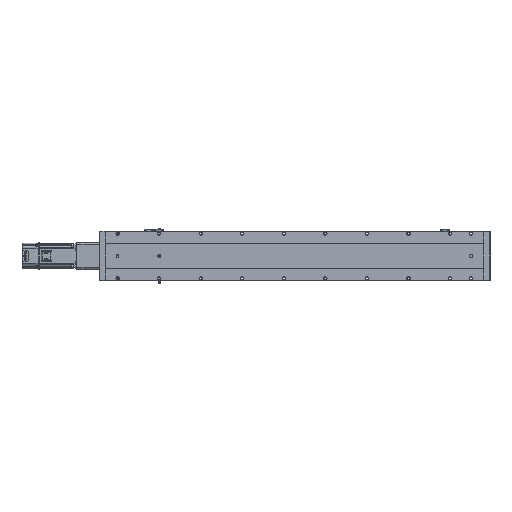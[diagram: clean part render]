
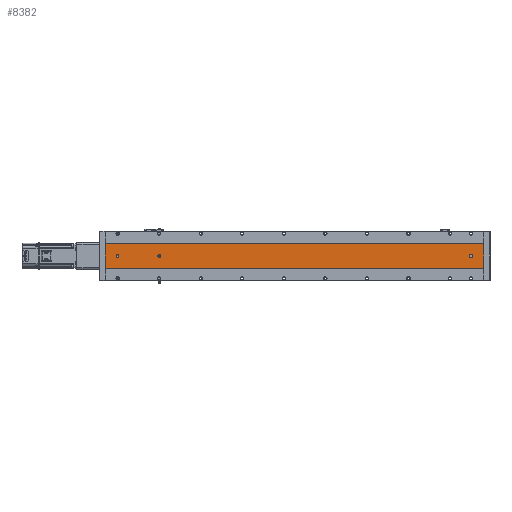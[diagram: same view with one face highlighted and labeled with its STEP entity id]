
A CAD part, front view. The second image highlights one B-rep face of the part: STEP entity #8382.
In plain terms, the highlighted planar face has unit normal (0, -1, 0).
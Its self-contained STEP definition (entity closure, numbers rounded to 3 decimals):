
#23 = VERTEX_POINT ( 'NONE', #77387 ) ;
#291 = DIRECTION ( 'NONE',  ( 0., 1., 0. ) ) ;
#675 = CARTESIAN_POINT ( 'NONE',  ( -9.892, -52.848, 0. ) ) ;
#2513 = VERTEX_POINT ( 'NONE', #675 ) ;
#4134 = DIRECTION ( 'NONE',  ( 0., 1., 0. ) ) ;
#5454 = CARTESIAN_POINT ( 'NONE',  ( -39.892, -52.848, 884.5 ) ) ;
#6051 = VECTOR ( 'NONE', #64395, 1000. ) ;
#6701 = ORIENTED_EDGE ( 'NONE', *, *, #75111, .F. ) ;
#6790 = ORIENTED_EDGE ( 'NONE', *, *, #72356, .T. ) ;
#7055 = DIRECTION ( 'NONE',  ( 0., 1., 0. ) ) ;
#8132 = DIRECTION ( 'NONE',  ( 1., 0., 0. ) ) ;
#8382 = ADVANCED_FACE ( 'NONE', ( #68181, #33062, #64679, #16175 ), #57398, .F. ) ;
#10015 = AXIS2_PLACEMENT_3D ( 'NONE', #86166, #7055, #14232 ) ;
#10121 = VERTEX_POINT ( 'NONE', #18904 ) ;
#11327 = EDGE_CURVE ( 'NONE', #25467, #47497, #26437, .T. ) ;
#11564 = ORIENTED_EDGE ( 'NONE', *, *, #40714, .T. ) ;
#12415 = CIRCLE ( 'NONE', #27857, 3.5 ) ;
#13241 = ORIENTED_EDGE ( 'NONE', *, *, #45825, .T. ) ;
#14229 = DIRECTION ( 'NONE',  ( 0., 0., 1. ) ) ;
#14232 = DIRECTION ( 'NONE',  ( 0., 0., 1. ) ) ;
#14260 = VERTEX_POINT ( 'NONE', #5454 ) ;
#15794 = DIRECTION ( 'NONE',  ( 0., 1., 0. ) ) ;
#16175 = FACE_OUTER_BOUND ( 'NONE', #29488, .T. ) ;
#17021 = ORIENTED_EDGE ( 'NONE', *, *, #91990, .T. ) ;
#18904 = CARTESIAN_POINT ( 'NONE',  ( -69.892, -52.848, 0. ) ) ;
#19615 = LINE ( 'NONE', #82761, #31955 ) ;
#21470 = DIRECTION ( 'NONE',  ( 0., 1., 0. ) ) ;
#22105 = CARTESIAN_POINT ( 'NONE',  ( -9.892, -52.848, 911. ) ) ;
#23898 = CARTESIAN_POINT ( 'NONE',  ( -43.392, -52.848, 30. ) ) ;
#23964 = AXIS2_PLACEMENT_3D ( 'NONE', #43540, #21470, #14229 ) ;
#25037 = ORIENTED_EDGE ( 'NONE', *, *, #30615, .T. ) ;
#25310 = DIRECTION ( 'NONE',  ( 0., 0., 1. ) ) ;
#25467 = VERTEX_POINT ( 'NONE', #48400 ) ;
#26392 = CARTESIAN_POINT ( 'NONE',  ( -39.892, -52.848, 32. ) ) ;
#26437 = CIRCLE ( 'NONE', #90045, 3.5 ) ;
#27857 = AXIS2_PLACEMENT_3D ( 'NONE', #56158, #63461, #85235 ) ;
#28005 = ORIENTED_EDGE ( 'NONE', *, *, #58244, .F. ) ;
#29432 = LINE ( 'NONE', #36204, #39580 ) ;
#29488 = EDGE_LOOP ( 'NONE', ( #72366, #6701, #28005, #6790 ) ) ;
#30615 = EDGE_CURVE ( 'NONE', #35673, #14260, #31300, .T. ) ;
#30717 = LINE ( 'NONE', #51105, #6051 ) ;
#31300 = CIRCLE ( 'NONE', #55776, 3.5 ) ;
#31955 = VECTOR ( 'NONE', #53366, 1000. ) ;
#33062 = FACE_BOUND ( 'NONE', #33422, .T. ) ;
#33422 = EDGE_LOOP ( 'NONE', ( #88220, #13241 ) ) ;
#34061 = LINE ( 'NONE', #85053, #50998 ) ;
#34549 = CARTESIAN_POINT ( 'NONE',  ( -39.892, -52.848, 784.5 ) ) ;
#34796 = CARTESIAN_POINT ( 'NONE',  ( -36.392, -52.848, 30. ) ) ;
#34836 = CARTESIAN_POINT ( 'NONE',  ( -39.892, -52.848, 881. ) ) ;
#35673 = VERTEX_POINT ( 'NONE', #86765 ) ;
#36039 = DIRECTION ( 'NONE',  ( 0., 1., 0. ) ) ;
#36204 = CARTESIAN_POINT ( 'NONE',  ( -43.392, -52.848, 911. ) ) ;
#36625 = ORIENTED_EDGE ( 'NONE', *, *, #81241, .T. ) ;
#37162 = VERTEX_POINT ( 'NONE', #41047 ) ;
#37825 = CARTESIAN_POINT ( 'NONE',  ( -39.892, -52.848, 30. ) ) ;
#39580 = VECTOR ( 'NONE', #87074, 1000. ) ;
#40435 = EDGE_CURVE ( 'NONE', #10121, #2513, #66096, .T. ) ;
#40714 = EDGE_CURVE ( 'NONE', #51933, #55270, #77366, .T. ) ;
#41047 = CARTESIAN_POINT ( 'NONE',  ( -9.892, -52.848, 911. ) ) ;
#41724 = ORIENTED_EDGE ( 'NONE', *, *, #11327, .T. ) ;
#41827 = EDGE_LOOP ( 'NONE', ( #36625, #41724, #61582, #57985, #11564 ) ) ;
#43351 = VERTEX_POINT ( 'NONE', #34796 ) ;
#43540 = CARTESIAN_POINT ( 'NONE',  ( -69.892, -52.848, 911. ) ) ;
#43743 = EDGE_CURVE ( 'NONE', #23, #76876, #72623, .T. ) ;
#44393 = LINE ( 'NONE', #22105, #70423 ) ;
#44891 = AXIS2_PLACEMENT_3D ( 'NONE', #91250, #48007, #25310 ) ;
#45825 = EDGE_CURVE ( 'NONE', #76876, #23, #77847, .T. ) ;
#46862 = VECTOR ( 'NONE', #54276, 1000. ) ;
#47497 = VERTEX_POINT ( 'NONE', #84136 ) ;
#48007 = DIRECTION ( 'NONE',  ( 0., 1., 0. ) ) ;
#48400 = CARTESIAN_POINT ( 'NONE',  ( -43.392, -52.848, 32. ) ) ;
#50998 = VECTOR ( 'NONE', #8132, 1000. ) ;
#51105 = CARTESIAN_POINT ( 'NONE',  ( -69.892, -52.848, 911. ) ) ;
#51377 = AXIS2_PLACEMENT_3D ( 'NONE', #64483, #36039, #79005 ) ;
#51933 = VERTEX_POINT ( 'NONE', #79508 ) ;
#53366 = DIRECTION ( 'NONE',  ( 0., 0., -1. ) ) ;
#54276 = DIRECTION ( 'NONE',  ( 1., 0., 0. ) ) ;
#54682 = AXIS2_PLACEMENT_3D ( 'NONE', #37825, #15794, #71331 ) ;
#55270 = VERTEX_POINT ( 'NONE', #23898 ) ;
#55776 = AXIS2_PLACEMENT_3D ( 'NONE', #34836, #291, #71809 ) ;
#56158 = CARTESIAN_POINT ( 'NONE',  ( -39.892, -52.848, 881. ) ) ;
#57398 = PLANE ( 'NONE',  #23964 ) ;
#57985 = ORIENTED_EDGE ( 'NONE', *, *, #67833, .T. ) ;
#58244 = EDGE_CURVE ( 'NONE', #63452, #37162, #34061, .T. ) ;
#61582 = ORIENTED_EDGE ( 'NONE', *, *, #89928, .T. ) ;
#63452 = VERTEX_POINT ( 'NONE', #74459 ) ;
#63461 = DIRECTION ( 'NONE',  ( 0., 1., 0. ) ) ;
#64395 = DIRECTION ( 'NONE',  ( 0., 0., -1. ) ) ;
#64483 = CARTESIAN_POINT ( 'NONE',  ( -39.892, -52.848, 30. ) ) ;
#64679 = FACE_BOUND ( 'NONE', #76260, .T. ) ;
#65965 = DIRECTION ( 'NONE',  ( 0., 0., -1. ) ) ;
#66096 = LINE ( 'NONE', #76050, #46862 ) ;
#67833 = EDGE_CURVE ( 'NONE', #43351, #51933, #80282, .T. ) ;
#68181 = FACE_BOUND ( 'NONE', #41827, .T. ) ;
#70423 = VECTOR ( 'NONE', #65965, 1000. ) ;
#71331 = DIRECTION ( 'NONE',  ( 0., 0., 1. ) ) ;
#71809 = DIRECTION ( 'NONE',  ( 0., 0., 1. ) ) ;
#72356 = EDGE_CURVE ( 'NONE', #63452, #10121, #30717, .T. ) ;
#72366 = ORIENTED_EDGE ( 'NONE', *, *, #40435, .T. ) ;
#72623 = CIRCLE ( 'NONE', #44891, 3.5 ) ;
#74459 = CARTESIAN_POINT ( 'NONE',  ( -69.892, -52.848, 911. ) ) ;
#75111 = EDGE_CURVE ( 'NONE', #37162, #2513, #44393, .T. ) ;
#76050 = CARTESIAN_POINT ( 'NONE',  ( -69.892, -52.848, 0. ) ) ;
#76260 = EDGE_LOOP ( 'NONE', ( #25037, #17021 ) ) ;
#76876 = VERTEX_POINT ( 'NONE', #34549 ) ;
#77173 = DIRECTION ( 'NONE',  ( 0., 0., 1. ) ) ;
#77366 = CIRCLE ( 'NONE', #54682, 3.5 ) ;
#77387 = CARTESIAN_POINT ( 'NONE',  ( -39.892, -52.848, 777.5 ) ) ;
#77847 = CIRCLE ( 'NONE', #10015, 3.5 ) ;
#79005 = DIRECTION ( 'NONE',  ( 0., 0., 1. ) ) ;
#79508 = CARTESIAN_POINT ( 'NONE',  ( -39.892, -52.848, 26.5 ) ) ;
#80282 = CIRCLE ( 'NONE', #51377, 3.5 ) ;
#81241 = EDGE_CURVE ( 'NONE', #55270, #25467, #29432, .T. ) ;
#82761 = CARTESIAN_POINT ( 'NONE',  ( -36.392, -52.848, 911. ) ) ;
#84136 = CARTESIAN_POINT ( 'NONE',  ( -36.392, -52.848, 32. ) ) ;
#85053 = CARTESIAN_POINT ( 'NONE',  ( -69.892, -52.848, 911. ) ) ;
#85235 = DIRECTION ( 'NONE',  ( 0., 0., 1. ) ) ;
#86166 = CARTESIAN_POINT ( 'NONE',  ( -39.892, -52.848, 781. ) ) ;
#86765 = CARTESIAN_POINT ( 'NONE',  ( -39.892, -52.848, 877.5 ) ) ;
#87074 = DIRECTION ( 'NONE',  ( 0., 0., 1. ) ) ;
#88220 = ORIENTED_EDGE ( 'NONE', *, *, #43743, .T. ) ;
#89928 = EDGE_CURVE ( 'NONE', #47497, #43351, #19615, .T. ) ;
#90045 = AXIS2_PLACEMENT_3D ( 'NONE', #26392, #4134, #77173 ) ;
#91250 = CARTESIAN_POINT ( 'NONE',  ( -39.892, -52.848, 781. ) ) ;
#91990 = EDGE_CURVE ( 'NONE', #14260, #35673, #12415, .T. ) ;
